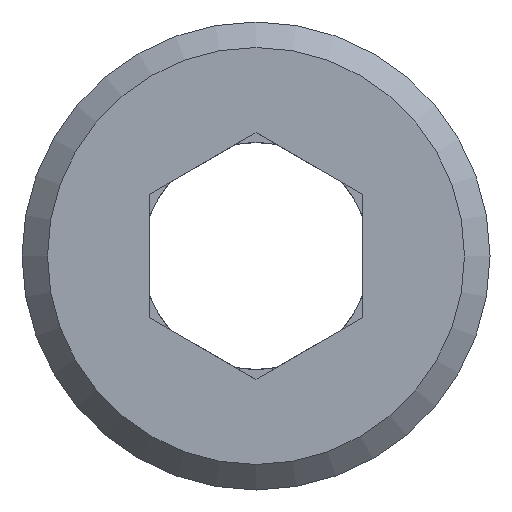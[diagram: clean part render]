
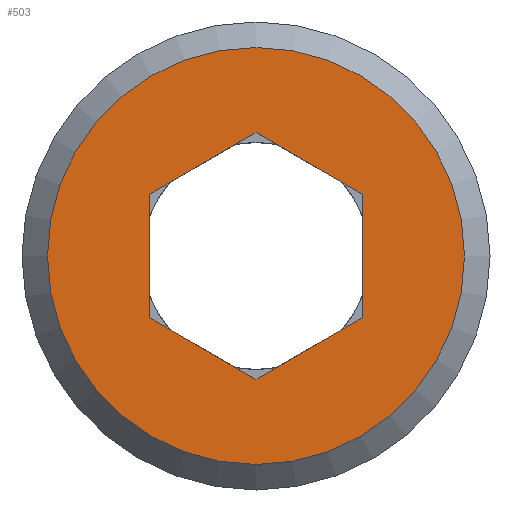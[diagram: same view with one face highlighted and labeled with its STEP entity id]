
A CAD part, front view. The second image highlights one B-rep face of the part: STEP entity #503.
In plain terms, the highlighted planar face has unit normal (0, -1, 0).
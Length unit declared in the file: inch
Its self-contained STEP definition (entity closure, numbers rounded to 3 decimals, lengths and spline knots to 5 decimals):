
#19=FACE_BOUND('',#85,.T.);
#52=FACE_OUTER_BOUND('',#84,.T.);
#84=EDGE_LOOP('',(#417));
#85=EDGE_LOOP('',(#418,#419,#420,#421,#422,#423));
#103=LINE('',#803,#139);
#107=LINE('',#809,#143);
#110=LINE('',#814,#146);
#113=LINE('',#819,#149);
#116=LINE('',#824,#152);
#119=LINE('',#828,#155);
#139=VECTOR('',#629,0.3937);
#143=VECTOR('',#635,0.3937);
#146=VECTOR('',#640,0.3937);
#149=VECTOR('',#645,0.3937);
#152=VECTOR('',#650,0.3937);
#155=VECTOR('',#655,0.3937);
#189=CIRCLE('',#572,0.365);
#217=VERTEX_POINT('',#801);
#218=VERTEX_POINT('',#802);
#219=VERTEX_POINT('',#808);
#220=VERTEX_POINT('',#813);
#221=VERTEX_POINT('',#818);
#222=VERTEX_POINT('',#823);
#234=VERTEX_POINT('',#873);
#262=EDGE_CURVE('',#217,#218,#103,.T.);
#266=EDGE_CURVE('',#219,#217,#107,.T.);
#269=EDGE_CURVE('',#220,#219,#110,.T.);
#272=EDGE_CURVE('',#221,#220,#113,.T.);
#275=EDGE_CURVE('',#222,#221,#116,.T.);
#278=EDGE_CURVE('',#218,#222,#119,.T.);
#300=EDGE_CURVE('',#234,#234,#189,.T.);
#417=ORIENTED_EDGE('',*,*,#300,.F.);
#418=ORIENTED_EDGE('',*,*,#275,.T.);
#419=ORIENTED_EDGE('',*,*,#272,.T.);
#420=ORIENTED_EDGE('',*,*,#269,.T.);
#421=ORIENTED_EDGE('',*,*,#266,.T.);
#422=ORIENTED_EDGE('',*,*,#262,.T.);
#423=ORIENTED_EDGE('',*,*,#278,.T.);
#476=PLANE('',#578);
#503=ADVANCED_FACE('',(#52,#19),#476,.T.);
#572=AXIS2_PLACEMENT_3D('',#874,#720,#721);
#578=AXIS2_PLACEMENT_3D('',#886,#734,#735);
#629=DIRECTION('',(-0.866,0.,0.5));
#635=DIRECTION('',(-0.866,0.,-0.5));
#640=DIRECTION('',(0.,0.,-1.));
#645=DIRECTION('',(0.866,0.,-0.5));
#650=DIRECTION('',(0.866,0.,0.5));
#655=DIRECTION('',(0.,0.,1.));
#720=DIRECTION('center_axis',(0.,1.,0.));
#721=DIRECTION('ref_axis',(0.,0.,1.));
#734=DIRECTION('center_axis',(0.,-1.,0.));
#735=DIRECTION('ref_axis',(0.,0.,-1.));
#801=CARTESIAN_POINT('',(0.,0.,-0.21593));
#802=CARTESIAN_POINT('',(-0.187,0.,-0.10796));
#803=CARTESIAN_POINT('',(-0.00626,0.,-0.21231));
#808=CARTESIAN_POINT('',(0.187,0.,-0.10796));
#809=CARTESIAN_POINT('',(0.09976,0.,-0.15833));
#813=CARTESIAN_POINT('',(0.187,0.,0.10796));
#814=CARTESIAN_POINT('',(0.187,0.,-0.03952));
#818=CARTESIAN_POINT('',(0.,0.,0.21593));
#819=CARTESIAN_POINT('',(0.08724,0.,0.16556));
#823=CARTESIAN_POINT('',(-0.187,0.,0.10796));
#824=CARTESIAN_POINT('',(-0.18074,0.,0.11158));
#828=CARTESIAN_POINT('',(-0.187,0.,-0.14748));
#873=CARTESIAN_POINT('',(0.,0.,-0.365));
#874=CARTESIAN_POINT('Origin',(0.,0.,0.));
#886=CARTESIAN_POINT('Origin',(0.,0.,-0.187));
